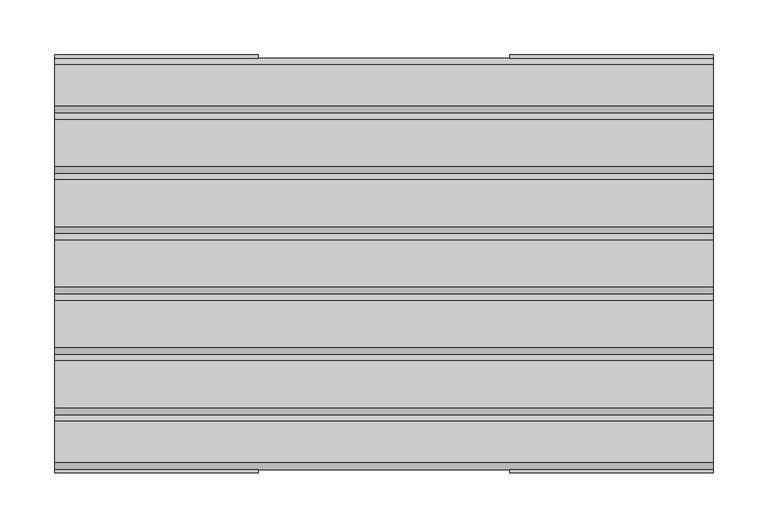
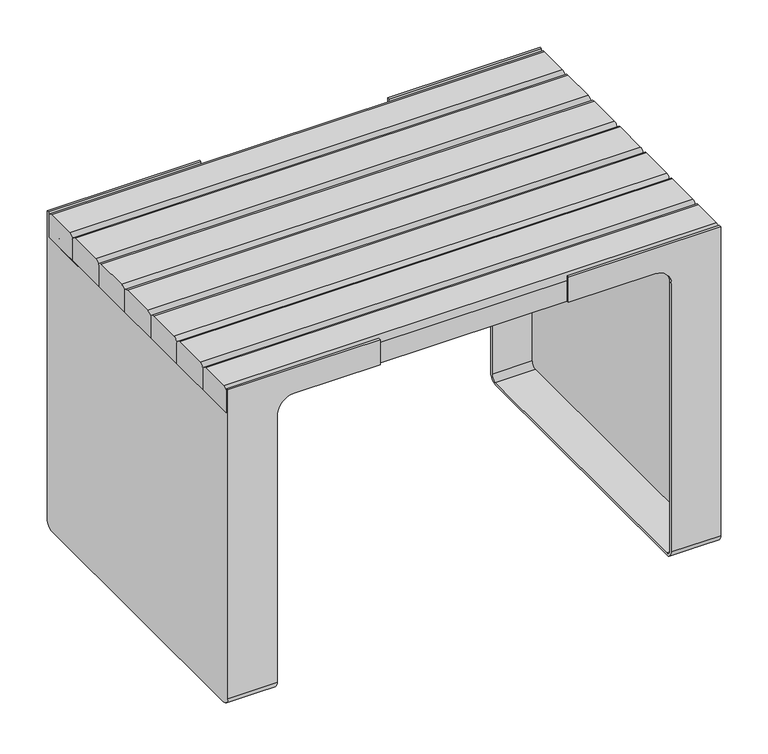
"""IFC4 building model written with IfcOpenShell, lengths in millimetres: furniture geometry, Roros Produkter - Nobel - Stool - 32670 : Roros Produkter - Nobel - Stool - 32670."""

from ifc_helpers import new_model, si_unit, point, frame, frame_2d, origin, place, context, project, spatial, polyline, circle_curve, trimmed, segment, composite_curve, outline, extrude, source, transform, mapped, element, save
from ifc_brep_helpers import plane_surface, cylinder_surface, revolved_surface, advanced_brep


def furniture_fbf1eeca(model_context):
    return source(origin(), model_context, "Body", "SolidModel", [
        advanced_brep(
        [(239.9998856, 190.4999943, 10.0), (239.9998856, 180.4999943, 0.0), (239.9998856, -180.5000057, 0.0), (239.9998856, -190.5000057, 10.0), (239.9998856, -190.5000057, 355.0000029), (239.9998856, -187.4999958, 355.0000029), (239.9998856, -187.5000057, 9.6519473), (239.9998856, -180.5000057, 2.6519473), (239.9998856, 180.4999958, 2.6519473), (239.9998856, 187.4999958, 9.6519473), (239.9998856, 187.4999958, 355.0000029), (239.9998856, 190.4999943, 355.0000029), (239.9998856, -187.4999958, 375.0000029), (239.9998856, 187.4999958, 375.0000029), (239.9998856, 187.4999958, 365.0000043), (239.9998856, 180.4999958, 372.0000043), (239.9998856, -180.5000057, 372.0000043), (239.9998856, -187.5000057, 365.0000043), (300.0000023, -190.5000057, 10.0), (300.0000023, -180.5000057, 0.0), (300.0000023, 180.4999943, 0.0), (300.0000023, 190.4999943, 10.0), (300.0000023, 190.5000057, 407.5), (300.0000023, 187.4999958, 407.5), (300.0000023, 187.4999958, 375.0000029), (300.0000023, -187.4999958, 375.0000029), (300.0000023, -187.4999958, 407.5), (300.0000023, -190.5000057, 407.5), (219.9998856, 190.4999943, 375.0000029), (114.6665474, 190.4999943, 375.0000029), (114.6665474, 190.4999943, 407.5), (114.6665474, -190.5000057, 407.5), (114.6665474, -190.5000057, 375.0000029), (219.9998856, -190.5000057, 375.0000029), (289.0000025, 187.4999958, 365.0000043), (289.0000025, 187.4999958, 9.6519473), (289.0000025, 180.4999958, 2.6519473), (289.0000025, -180.5000057, 2.6519473), (289.0000025, -187.5000057, 9.6519473), (289.0000025, -187.5000057, 365.0000043), (289.0000025, -180.5000057, 372.0000043), (289.0000025, 180.4999958, 372.0000043), (219.9998856, -187.4999958, 375.0000029), (114.6665474, -187.4999958, 375.0000029), (114.6665474, -187.4999958, 407.5), (114.6665474, 187.4999958, 407.5), (114.6665474, 187.4999958, 375.0000029), (219.9998856, 187.4999958, 375.0000029)],
        [
            (0, 1, circle_curve(frame((239.9998856, 180.4999943, 10.0), z_axis=(-1.0, 0.0, 0.0), x_axis=(0.0, -1.0, 0.0)), 10.0)),
            (1, 2),
            (2, 3, circle_curve(frame((239.9998856, -180.5000057, 10.0), z_axis=(-1.0, 0.0, 0.0), x_axis=(0.0, -1.0, 0.0)), 10.0)),
            (3, 4),
            (4, 5),
            (5, 6),
            (6, 7, circle_curve(frame((239.9998856, -180.5000057, 9.6519473), z_axis=(1.0, 0.0, 0.0), x_axis=(0.0, -1.0, 0.0)), 7.0)),
            (7, 8),
            (8, 9, circle_curve(frame((239.9998856, 180.4999958, 9.6519473), z_axis=(1.0, 0.0, 0.0), x_axis=(0.0, -1.0, 0.0)), 7.0)),
            (9, 10),
            (10, 11),
            (11, 0),
            (12, 13),
            (13, 14),
            (14, 15, circle_curve(frame((239.9998856, 180.4999958, 365.0000043), z_axis=(1.0, 0.0, 0.0), x_axis=(0.0, -1.0, 0.0)), 7.0)),
            (15, 16),
            (16, 17, circle_curve(frame((239.9998856, -180.5000057, 365.0000043), z_axis=(1.0, 0.0, 0.0), x_axis=(0.0, -1.0, 0.0)), 7.0)),
            (17, 12),
            (18, 19, circle_curve(frame((300.0000023, -180.5000057, 10.0), z_axis=(1.0, 0.0, 0.0), x_axis=(0.0, -1.0, 0.0)), 10.0)),
            (19, 20),
            (20, 21, circle_curve(frame((300.0000023, 180.4999943, 10.0), z_axis=(1.0, 0.0, 0.0), x_axis=(0.0, -1.0, 0.0)), 10.0)),
            (21, 22),
            (22, 23),
            (23, 24),
            (24, 25),
            (25, 26),
            (26, 27),
            (27, 18),
            (21, 0),
            (11, 28, circle_curve(frame((219.9998856, 190.4999943, 355.0000029), z_axis=(0.0, -1.0, 0.0), x_axis=(-1.0, 0.0, 0.0)), 20.0)),
            (28, 29),
            (29, 30),
            (30, 22),
            (12, 25),
            (24, 13),
            (3, 18),
            (27, 31),
            (31, 32),
            (32, 33),
            (33, 4, circle_curve(frame((219.9998856, -190.5000057, 355.0000029), z_axis=(0.0, 1.0, 0.0), x_axis=(-1.0, 0.0, 0.0)), 20.0)),
            (2, 19),
            (1, 20),
            (34, 35),
            (35, 36, circle_curve(frame((289.0000025, 180.4999958, 9.6519473), z_axis=(-1.0, 0.0, 0.0), x_axis=(0.0, -1.0, 0.0)), 7.0)),
            (36, 37),
            (37, 38, circle_curve(frame((289.0000025, -180.5000057, 9.6519473), z_axis=(-1.0, 0.0, 0.0), x_axis=(0.0, -1.0, 0.0)), 7.0)),
            (38, 39),
            (39, 40, circle_curve(frame((289.0000025, -180.5000057, 365.0000043), z_axis=(-1.0, 0.0, 0.0), x_axis=(0.0, -1.0, 0.0)), 7.0)),
            (40, 41),
            (41, 34, circle_curve(frame((289.0000025, 180.4999958, 365.0000043), z_axis=(-1.0, 0.0, 0.0), x_axis=(0.0, -1.0, 0.0)), 7.0)),
            (40, 16),
            (15, 41),
            (36, 8),
            (7, 37),
            (14, 34),
            (39, 17),
            (6, 38),
            (35, 9),
            (42, 43),
            (43, 44),
            (44, 26),
            (5, 42, circle_curve(frame((219.9998856, -187.4999958, 355.0000029), z_axis=(0.0, -1.0, 0.0), x_axis=(-1.0, 0.0, 0.0)), 20.0)),
            (32, 43),
            (42, 33),
            (31, 44),
            (23, 45),
            (45, 46),
            (46, 47),
            (47, 10, circle_curve(frame((219.9998856, 187.4999958, 355.0000029), z_axis=(0.0, 1.0, 0.0), x_axis=(-1.0, 0.0, 0.0)), 20.0)),
            (28, 47),
            (46, 29),
            (45, 30),
        ],
        [
            plane_surface(frame((239.9998856, 170.4999943, 10.0), z_axis=(-1.0, 0.0, 0.0), x_axis=(0.0, 0.0, 1.0))),
            plane_surface(frame((300.0000023, 170.4999943, 10.0), z_axis=(1.0, 0.0, 0.0), x_axis=(0.0, 0.0, -1.0))),
            plane_surface(frame((239.9998856, 190.4999943, 375.0000029), z_axis=(0.0, 1.0, 0.0), x_axis=(1.0, 0.0, 0.0))),
            plane_surface(frame((239.9998856, -190.5000057, 375.0000029), z_axis=(0.0, 0.0, 1.0), x_axis=(1.0, 0.0, 0.0))),
            plane_surface(frame((239.9998856, -190.5000057, 10.0), z_axis=(0.0, -1.0, 0.0), x_axis=(1.0, 0.0, 0.0))),
            cylinder_surface(frame((300.0000023, -180.5000057, 10.0), z_axis=(-1.0, 0.0, 0.0), x_axis=(0.0, -1.0, 0.0)), 10.0),
            plane_surface(frame((239.9998856, 180.4999943, 0.0), z_axis=(0.0, 0.0, -1.0), x_axis=(1.0, 0.0, 0.0))),
            cylinder_surface(frame((300.0000023, 180.4999943, 10.0), z_axis=(-1.0, 0.0, 0.0), x_axis=(0.0, -1.0, 0.0)), 10.0),
            plane_surface(frame((289.0000025, 187.4999958, 11.3137092), z_axis=(-1.0, 0.0, 0.0), x_axis=(0.0, 0.0, 1.0))),
            plane_surface(frame((170.0000067, -180.5000057, 372.0000043), z_axis=(0.0, 0.0, -1.0), x_axis=(1.0, 0.0, 0.0))),
            plane_surface(frame((170.0000067, 180.4999958, 2.6519473), z_axis=(0.0, 0.0, 1.0), x_axis=(1.0, 0.0, 0.0))),
            revolved_surface(polyline([(239.9998856, 173.4999958, 365.0000043), (289.0000025, 173.4999958, 365.0000043)]), (289.0000025, 180.4999958, 365.0000043), (-1.0, 0.0, 0.0)),
            revolved_surface(polyline([(239.9998856, -187.5000057, 365.0000043), (289.0000025, -187.5000057, 365.0000043)]), (289.0000025, -180.5000057, 365.0000043), (-1.0, 0.0, 0.0)),
            revolved_surface(polyline([(239.9998856, -187.5000057, 9.6519473), (289.0000025, -187.5000057, 9.6519473)]), (289.0000025, -180.5000057, 9.6519473), (-1.0, 0.0, 0.0)),
            revolved_surface(polyline([(239.9998856, 173.4999958, 9.6519473), (289.0000025, 173.4999958, 9.6519473)]), (289.0000025, 180.4999958, 9.6519473), (-1.0, 0.0, 0.0)),
            plane_surface(frame((300.0000023, -187.4999958, 425.0000032), z_axis=(0.0, 1.0, 0.0), x_axis=(0.0, 0.0, -1.0))),
            plane_surface(frame((114.6665474, -190.5000057, 375.0000029), z_axis=(0.0, 0.0, -1.0), x_axis=(0.0, 1.0, 0.0))),
            plane_surface(frame((114.6665474, -190.5000057, 407.5), z_axis=(-1.0, 0.0, 0.0), x_axis=(0.0, 1.0, 0.0))),
            plane_surface(frame((300.0000023, -190.5000057, 407.5), z_axis=(0.0, 0.0, 1.0), x_axis=(0.0, 1.0, 0.0))),
            revolved_surface(polyline([(199.9998856, -187.4999958, 355.0000029), (199.9998856, -190.5000057, 355.0000029)]), (219.9998856, -187.4999958, 355.0000029), (0.0, 1.0, 0.0)),
            plane_surface(frame((219.999998, 187.4999958, 375.0000029), z_axis=(0.0, -1.0, 0.0), x_axis=(1.0, 0.0, 0.0))),
            plane_surface(frame((219.9998856, 190.5000057, 375.0000029), z_axis=(0.0, 0.0, -1.0), x_axis=(0.0, -1.0, 0.0))),
            plane_surface(frame((114.6665474, 190.5000057, 375.0000029), z_axis=(-1.0, 0.0, 0.0), x_axis=(0.0, -1.0, 0.0))),
            plane_surface(frame((114.6665474, 190.5000057, 407.5), z_axis=(0.0, 0.0, 1.0), x_axis=(0.0, -1.0, 0.0))),
            revolved_surface(polyline([(199.9998856, 187.4999958, 355.0000029), (199.9998856, 190.4999943, 355.0000029)]), (219.9998856, 187.4999958, 355.0000029), (0.0, -1.0, 0.0)),
        ],
        [
            (0, [[1, 2, 3, 4, 5, 6, 7, 8, 9, 10, 11, 12]]),
            (0, [[13, 14, 15, 16, 17, 18]]),
            (1, [[19, 20, 21, 22, 23, 24, 25, 26, 27, 28]]),
            (2, [[29, -12, 30, 31, 32, 33, -22]]),
            (3, [[34, -25, 35, -13]]),
            (4, [[36, -28, 37, 38, 39, 40, -4]]),
            (5, [[-3, 41, -19, -36]]),
            (6, [[-2, 42, -20, -41]]),
            (7, [[-1, -29, -21, -42]]),
            (8, [[43, 44, 45, 46, 47, 48, 49, 50]]),
            (9, [[-49, 51, -16, 52]]),
            (10, [[-45, 53, -8, 54]]),
            (11, [[-50, -52, -15, 55]]),
            (12, [[-48, 56, -17, -51]]),
            (13, [[-46, -54, -7, 57]]),
            (14, [[-44, 58, -9, -53]]),
            (15, [[59, 60, 61, -26, -34, -18, -56, -47, -57, -6, 62]]),
            (16, [[-39, 63, -59, 64]]),
            (17, [[-38, 65, -60, -63]]),
            (18, [[-37, -27, -61, -65]]),
            (19, [[-40, -64, -62, -5]]),
            (20, [[-24, 66, 67, 68, 69, -10, -58, -43, -55, -14, -35]]),
            (21, [[-31, 70, -68, 71]]),
            (22, [[-32, -71, -67, 72]]),
            (23, [[-33, -72, -66, -23]]),
            (24, [[-30, -11, -69, -70]]),
        ],
    ),
        advanced_brep(
        [(-239.9998856, -190.5000057, 10.0), (-239.9998856, -180.5000057, 0.0), (-239.9998856, 180.4999943, 0.0), (-239.9998856, 190.4999943, 10.0), (-239.9998856, 190.4999943, 355.0000029), (-239.9998856, 187.4999958, 355.0000029), (-239.9998856, 187.4999958, 9.6519473), (-239.9998856, 180.4999958, 2.6519473), (-239.9998856, -180.5000057, 2.6519473), (-239.9998856, -187.5000057, 9.6519473), (-239.9998856, -187.5000057, 355.0000029), (-239.9998856, -190.5000057, 355.0000029), (-239.9998856, -187.4999958, 375.0000029), (-239.9998856, -187.5000057, 365.0000043), (-239.9998856, -180.5000057, 372.0000043), (-239.9998856, 180.4999958, 372.0000043), (-239.9998856, 187.4999958, 365.0000043), (-239.9998856, 187.4999958, 375.0000029), (-300.0000023, 190.4999943, 10.0), (-300.0000023, 180.4999943, 0.0), (-300.0000023, -180.5000057, 0.0), (-300.0000023, -190.5000057, 10.0), (-300.0000023, -190.5000057, 407.5), (-300.0000023, -187.4999958, 407.5), (-300.0000023, -187.4999958, 375.0000029), (-300.0000023, 187.4999958, 375.0000029), (-300.0000023, 187.4999958, 407.5), (-300.0000023, 190.5000057, 407.5), (-114.6665474, 190.4999943, 407.5), (-114.6665474, 190.4999943, 375.0000029), (-219.9998856, 190.4999943, 375.0000029), (-219.9998856, -190.5000057, 375.0000029), (-114.6665474, -190.5000057, 375.0000029), (-114.6665474, -190.5000057, 407.5), (-289.0000025, 187.4999958, 365.0000043), (-289.0000025, 180.4999958, 372.0000043), (-289.0000025, -180.5000057, 372.0000043), (-289.0000025, -187.5000057, 365.0000043), (-289.0000025, -187.5000057, 9.6519473), (-289.0000025, -180.5000057, 2.6519473), (-289.0000025, 180.4999958, 2.6519473), (-289.0000025, 187.4999958, 9.6519473), (-219.9998856, 187.4999958, 375.0000029), (-114.6665474, 187.4999958, 375.0000029), (-114.6665474, 187.4999958, 407.5), (-114.6665474, -187.4999958, 407.5), (-114.6665474, -187.4999958, 375.0000029), (-219.9998856, -187.4999958, 375.0000029)],
        [
            (0, 1, circle_curve(frame((-239.9998856, -180.5000057, 10.0), z_axis=(1.0, 0.0, 0.0), x_axis=(0.0, -1.0, 0.0)), 10.0)),
            (1, 2),
            (2, 3, circle_curve(frame((-239.9998856, 180.4999943, 10.0), z_axis=(1.0, 0.0, 0.0), x_axis=(0.0, -1.0, 0.0)), 10.0)),
            (3, 4),
            (4, 5),
            (5, 6),
            (6, 7, circle_curve(frame((-239.9998856, 180.4999958, 9.6519473), z_axis=(-1.0, 0.0, 0.0), x_axis=(0.0, -1.0, 0.0)), 7.0)),
            (7, 8),
            (8, 9, circle_curve(frame((-239.9998856, -180.5000057, 9.6519473), z_axis=(-1.0, 0.0, 0.0), x_axis=(0.0, -1.0, 0.0)), 7.0)),
            (9, 10),
            (10, 11),
            (11, 0),
            (12, 13),
            (13, 14, circle_curve(frame((-239.9998856, -180.5000057, 365.0000043), z_axis=(-1.0, 0.0, 0.0), x_axis=(0.0, -1.0, 0.0)), 7.0)),
            (14, 15),
            (15, 16, circle_curve(frame((-239.9998856, 180.4999958, 365.0000043), z_axis=(-1.0, 0.0, 0.0), x_axis=(0.0, -1.0, 0.0)), 7.0)),
            (16, 17),
            (17, 12),
            (18, 19, circle_curve(frame((-300.0000023, 180.4999943, 10.0), z_axis=(-1.0, 0.0, 0.0), x_axis=(0.0, -1.0, 0.0)), 10.0)),
            (19, 20),
            (20, 21, circle_curve(frame((-300.0000023, -180.5000057, 10.0), z_axis=(-1.0, 0.0, 0.0), x_axis=(0.0, -1.0, 0.0)), 10.0)),
            (21, 22),
            (22, 23),
            (23, 24),
            (24, 25),
            (25, 26),
            (26, 27),
            (27, 18),
            (27, 28),
            (28, 29),
            (29, 30),
            (30, 4, circle_curve(frame((-219.9998856, 190.4999943, 355.0000029), z_axis=(0.0, -1.0, 0.0), x_axis=(1.0, 0.0, 0.0)), 20.0)),
            (3, 18),
            (24, 12),
            (17, 25),
            (21, 0),
            (11, 31, circle_curve(frame((-219.9998856, -190.5000057, 355.0000029), z_axis=(0.0, 1.0, 0.0), x_axis=(1.0, 0.0, 0.0)), 20.0)),
            (31, 32),
            (32, 33),
            (33, 22),
            (20, 1),
            (19, 2),
            (34, 35, circle_curve(frame((-289.0000025, 180.4999958, 365.0000043), z_axis=(1.0, 0.0, 0.0), x_axis=(0.0, -1.0, 0.0)), 7.0)),
            (35, 36),
            (36, 37, circle_curve(frame((-289.0000025, -180.5000057, 365.0000043), z_axis=(1.0, 0.0, 0.0), x_axis=(0.0, -1.0, 0.0)), 7.0)),
            (37, 38),
            (38, 39, circle_curve(frame((-289.0000025, -180.5000057, 9.6519473), z_axis=(1.0, 0.0, 0.0), x_axis=(0.0, -1.0, 0.0)), 7.0)),
            (39, 40),
            (40, 41, circle_curve(frame((-289.0000025, 180.4999958, 9.6519473), z_axis=(1.0, 0.0, 0.0), x_axis=(0.0, -1.0, 0.0)), 7.0)),
            (41, 34),
            (35, 15),
            (14, 36),
            (39, 8),
            (7, 40),
            (41, 6),
            (5, 42, circle_curve(frame((-219.9998856, 187.4999958, 355.0000029), z_axis=(0.0, 1.0, 0.0), x_axis=(1.0, 0.0, 0.0)), 20.0)),
            (42, 43),
            (43, 44),
            (44, 26),
            (16, 34),
            (13, 37),
            (38, 9),
            (29, 43),
            (42, 30),
            (28, 44),
            (23, 45),
            (45, 46),
            (46, 47),
            (47, 10, circle_curve(frame((-219.9998856, -187.4999958, 355.0000029), z_axis=(0.0, -1.0, 0.0), x_axis=(1.0, 0.0, 0.0)), 20.0)),
            (31, 47),
            (46, 32),
            (45, 33),
        ],
        [
            plane_surface(frame((-239.9998856, 190.4999943, 375.0000029), z_axis=(1.0, 0.0, 0.0), x_axis=(0.0, 0.0, 1.0))),
            plane_surface(frame((-300.0000023, 190.4999943, 375.0000029), z_axis=(-1.0, 0.0, 0.0), x_axis=(0.0, 0.0, -1.0))),
            plane_surface(frame((-239.9998856, 190.4999943, 10.0), z_axis=(0.0, 1.0, 0.0), x_axis=(-1.0, 0.0, 0.0))),
            plane_surface(frame((-239.9998856, 190.4999943, 375.0000029), z_axis=(0.0, 0.0, 1.0), x_axis=(-1.0, 0.0, 0.0))),
            plane_surface(frame((-239.9998856, -190.5000057, 375.0000029), z_axis=(0.0, -1.0, 0.0), x_axis=(-1.0, 0.0, 0.0))),
            cylinder_surface(frame((-300.0000023, -180.5000057, 10.0), z_axis=(1.0, 0.0, 0.0), x_axis=(0.0, -1.0, 0.0)), 10.0),
            plane_surface(frame((-239.9998856, -180.5000057, 0.0), z_axis=(0.0, 0.0, -1.0), x_axis=(-1.0, 0.0, 0.0))),
            cylinder_surface(frame((-300.0000023, 180.4999943, 10.0), z_axis=(1.0, 0.0, 0.0), x_axis=(0.0, -1.0, 0.0)), 10.0),
            plane_surface(frame((-289.0000025, 173.4999958, 365.0000043), z_axis=(1.0, 0.0, 0.0), x_axis=(0.0, 0.0, 1.0))),
            plane_surface(frame((-170.0000067, 180.4999958, 372.0000043), z_axis=(0.0, 0.0, -1.0), x_axis=(-1.0, 0.0, 0.0))),
            plane_surface(frame((-170.0000067, -180.5000057, 2.6519473), z_axis=(0.0, 0.0, 1.0), x_axis=(-1.0, 0.0, 0.0))),
            plane_surface(frame((-170.0000067, 187.4999958, 9.6519473), z_axis=(0.0, -1.0, 0.0), x_axis=(-1.0, 0.0, 0.0))),
            revolved_surface(polyline([(-239.9998856, 173.4999958, 365.0000043), (-289.0000025, 173.4999958, 365.0000043)]), (-289.0000025, 180.4999958, 365.0000043), (1.0, 0.0, 0.0)),
            revolved_surface(polyline([(-239.9998856, -187.5000057, 365.0000043), (-289.0000025, -187.5000057, 365.0000043)]), (-289.0000025, -180.5000057, 365.0000043), (1.0, 0.0, 0.0)),
            revolved_surface(polyline([(-239.9998856, -187.5000057, 9.6519473), (-289.0000025, -187.5000057, 9.6519473)]), (-289.0000025, -180.5000057, 9.6519473), (1.0, 0.0, 0.0)),
            revolved_surface(polyline([(-239.9998856, 173.4999958, 9.6519473), (-289.0000025, 173.4999958, 9.6519473)]), (-289.0000025, 180.4999958, 9.6519473), (1.0, 0.0, 0.0)),
            plane_surface(frame((-114.6665474, 190.5000057, 375.0000029), z_axis=(0.0, 0.0, -1.0), x_axis=(0.0, -1.0, 0.0))),
            plane_surface(frame((-114.6665474, 190.5000057, 407.5), z_axis=(1.0, 0.0, 0.0), x_axis=(0.0, -1.0, 0.0))),
            plane_surface(frame((-300.0000023, 190.5000057, 407.5), z_axis=(0.0, 0.0, 1.0), x_axis=(0.0, -1.0, 0.0))),
            revolved_surface(polyline([(-199.9998856, 187.4999958, 355.0000029), (-199.9998856, 190.4999943, 355.0000029)]), (-219.9998856, 187.4999958, 355.0000029), (0.0, -1.0, 0.0)),
            plane_surface(frame((-219.999998, -187.4999958, 375.0000029), z_axis=(0.0, 1.0, 0.0), x_axis=(-1.0, 0.0, 0.0))),
            plane_surface(frame((-219.9998856, -190.5000057, 375.0000029), z_axis=(0.0, 0.0, -1.0), x_axis=(0.0, 1.0, 0.0))),
            plane_surface(frame((-114.6665474, -190.5000057, 375.0000029), z_axis=(1.0, 0.0, 0.0), x_axis=(0.0, 1.0, 0.0))),
            plane_surface(frame((-114.6665474, -190.5000057, 407.5), z_axis=(0.0, 0.0, 1.0), x_axis=(0.0, 1.0, 0.0))),
            revolved_surface(polyline([(-199.9998856, -187.4999958, 355.0000029), (-199.9998856, -190.5000057, 355.0000029)]), (-219.9998856, -187.4999958, 355.0000029), (0.0, 1.0, 0.0)),
        ],
        [
            (0, [[1, 2, 3, 4, 5, 6, 7, 8, 9, 10, 11, 12]]),
            (0, [[13, 14, 15, 16, 17, 18]]),
            (1, [[19, 20, 21, 22, 23, 24, 25, 26, 27, 28]]),
            (2, [[-28, 29, 30, 31, 32, -4, 33]]),
            (3, [[34, -18, 35, -25]]),
            (4, [[36, -12, 37, 38, 39, 40, -22]]),
            (5, [[-1, -36, -21, 41]]),
            (6, [[-2, -41, -20, 42]]),
            (7, [[-3, -42, -19, -33]]),
            (8, [[43, 44, 45, 46, 47, 48, 49, 50]]),
            (9, [[-44, 51, -15, 52]]),
            (10, [[-48, 53, -8, 54]]),
            (11, [[-50, 55, -6, 56, 57, 58, 59, -26, -35, -17, 60]]),
            (12, [[-43, -60, -16, -51]]),
            (13, [[-45, -52, -14, 61]]),
            (14, [[-47, 62, -9, -53]]),
            (15, [[-49, -54, -7, -55]]),
            (16, [[-31, 63, -57, 64]]),
            (17, [[-30, 65, -58, -63]]),
            (18, [[-29, -27, -59, -65]]),
            (19, [[-32, -64, -56, -5]]),
            (20, [[-24, 66, 67, 68, 69, -10, -62, -46, -61, -13, -34]]),
            (21, [[-38, 70, -68, 71]]),
            (22, [[-39, -71, -67, 72]]),
            (23, [[-40, -72, -66, -23]]),
            (24, [[-37, -11, -69, -70]]),
        ],
    ),
        extrude(outline(composite_curve([segment(trimmed(circle_curve(frame_2d((88.4999913, 401.5)), 6.0), [point((82.4999913, 401.5))], [point((88.4999913, 407.5))], False, "CARTESIAN"), True, "CONTINUOUS"), segment(polyline([(88.4999913, 407.5), (131.4849653, 407.5)]), True, "CONTINUOUS"), segment(trimmed(circle_curve(frame_2d((131.4849653, 401.48497)), 6.01503), [point((131.4849653, 407.5))], [point((137.4999954, 401.48497))], False, "CARTESIAN"), True, "CONTINUOUS"), segment(polyline([(137.4999954, 401.48497), (137.4999954, 375.0000029), (82.4999913, 375.0000029), (82.4999913, 401.5)]), True, "CONTINUOUS")], self_intersect=False)), frame((-300.0000023, 0.0, 0.0), z_axis=(1.0, 0.0, 0.0), x_axis=(0.0, 1.0, 0.0)), (0.0, 0.0, 1.0), 600.0000046),
        extrude(outline(composite_curve([segment(trimmed(circle_curve(frame_2d((-21.4999963, 401.5)), 6.0), [point((-27.4999963, 401.5))], [point((-21.4999963, 407.5))], False, "CARTESIAN"), True, "CONTINUOUS"), segment(polyline([(-21.4999963, 407.5), (21.4849663, 407.5)]), True, "CONTINUOUS"), segment(trimmed(circle_curve(frame_2d((21.4849663, 401.48497)), 6.01503), [point((21.4849663, 407.5))], [point((27.4999963, 401.48497))], False, "CARTESIAN"), True, "CONTINUOUS"), segment(polyline([(27.4999963, 401.48497), (27.4999963, 375.0000029), (-27.4999963, 375.0000029), (-27.4999963, 401.5)]), True, "CONTINUOUS")], self_intersect=False)), frame((-300.0000023, 0.0, 0.0), z_axis=(1.0, 0.0, 0.0), x_axis=(0.0, 1.0, 0.0)), (0.0, 0.0, 1.0), 600.0000046),
        extrude(outline(composite_curve([segment(trimmed(circle_curve(frame_2d((-131.4999954, 401.5)), 6.0), [point((-137.4999954, 401.5))], [point((-131.4999954, 407.5))], False, "CARTESIAN"), True, "CONTINUOUS"), segment(polyline([(-131.4999954, 407.5), (-88.5150214, 407.5)]), True, "CONTINUOUS"), segment(trimmed(circle_curve(frame_2d((-88.5150214, 401.48497)), 6.01503), [point((-88.5150214, 407.5))], [point((-82.4999913, 401.48497))], False, "CARTESIAN"), True, "CONTINUOUS"), segment(polyline([(-82.4999913, 401.48497), (-82.4999913, 375.0000029), (-137.4999954, 375.0000029), (-137.4999954, 401.5)]), True, "CONTINUOUS")], self_intersect=False)), frame((-300.0000023, 0.0, 0.0), z_axis=(1.0, 0.0, 0.0), x_axis=(0.0, 1.0, 0.0)), (0.0, 0.0, 1.0), 600.0000046),
        extrude(outline(composite_curve([segment(polyline([(82.4999913, 401.5), (82.4999913, 375.0000029), (27.4999963, 375.0000029), (27.4999963, 401.5)]), True, "CONTINUOUS"), segment(trimmed(circle_curve(frame_2d((33.4999963, 401.5)), 6.0), [point((27.4999963, 401.5))], [point((33.4999963, 407.5))], False, "CARTESIAN"), True, "CONTINUOUS"), segment(polyline([(33.4999963, 407.5), (76.4999913, 407.5)]), True, "CONTINUOUS"), segment(trimmed(circle_curve(frame_2d((76.4999913, 401.5)), 6.0), [point((76.4999913, 407.5))], [point((82.4999913, 401.5))], False, "CARTESIAN"), True, "CONTINUOUS")], self_intersect=False)), frame((-300.0000023, 0.0, 0.0), z_axis=(1.0, 0.0, 0.0), x_axis=(0.0, 1.0, 0.0)), (0.0, 0.0, 1.0), 600.0000046),
        extrude(outline(composite_curve([segment(polyline([(-27.4999963, 401.5), (-27.4999963, 375.0000029), (-82.4999913, 375.0000029), (-82.4999913, 401.5)]), True, "CONTINUOUS"), segment(trimmed(circle_curve(frame_2d((-76.4999913, 401.5)), 6.0), [point((-82.4999913, 401.5))], [point((-76.4999913, 407.5))], False, "CARTESIAN"), True, "CONTINUOUS"), segment(polyline([(-76.4999913, 407.5), (-33.4999963, 407.5)]), True, "CONTINUOUS"), segment(trimmed(circle_curve(frame_2d((-33.4999963, 401.5)), 6.0), [point((-33.4999963, 407.5))], [point((-27.4999963, 401.5))], False, "CARTESIAN"), True, "CONTINUOUS")], self_intersect=False)), frame((-300.0000023, 0.0, 0.0), z_axis=(1.0, 0.0, 0.0), x_axis=(0.0, 1.0, 0.0)), (0.0, 0.0, 1.0), 600.0000046),
        extrude(outline(composite_curve([segment(polyline([(-137.4999954, 401.5), (-137.4999954, 375.0000029), (-187.4999958, 375.0000029), (-187.4999958, 401.5)]), True, "CONTINUOUS"), segment(trimmed(circle_curve(frame_2d((-181.4999958, 401.5)), 6.0), [point((-187.4999958, 401.5))], [point((-181.4999958, 407.5))], False, "CARTESIAN"), True, "CONTINUOUS"), segment(polyline([(-181.4999958, 407.5), (-143.4999954, 407.5)]), True, "CONTINUOUS"), segment(trimmed(circle_curve(frame_2d((-143.4999954, 401.5)), 6.0), [point((-143.4999954, 407.5))], [point((-137.4999954, 401.5))], False, "CARTESIAN"), True, "CONTINUOUS")], self_intersect=False)), frame((-300.0000023, 0.0, 0.0), z_axis=(1.0, 0.0, 0.0), x_axis=(0.0, 1.0, 0.0)), (0.0, 0.0, 1.0), 600.0000046),
        extrude(outline(composite_curve([segment(trimmed(circle_curve(frame_2d((143.4999954, 401.5)), 6.0), [point((137.4999954, 401.5))], [point((143.4999954, 407.5))], False, "CARTESIAN"), True, "CONTINUOUS"), segment(polyline([(143.4999954, 407.5), (181.4849657, 407.5)]), True, "CONTINUOUS"), segment(trimmed(circle_curve(frame_2d((181.4849657, 401.48497)), 6.01503), [point((181.4849657, 407.5))], [point((187.4999958, 401.48497))], False, "CARTESIAN"), True, "CONTINUOUS"), segment(polyline([(187.4999958, 401.48497), (187.4999958, 375.0000029), (137.4999954, 375.0000029), (137.4999954, 401.5)]), True, "CONTINUOUS")], self_intersect=False)), frame((-300.0000023, 0.0, 0.0), z_axis=(1.0, 0.0, 0.0), x_axis=(0.0, 1.0, 0.0)), (0.0, 0.0, 1.0), 600.0000046),
    ])


if __name__ == "__main__":
    model = new_model("IFC4")
    model_context = context("Model", 3, world=origin())
    ifc_project = project(units=[si_unit("LENGTHUNIT", "METRE", prefix="MILLI")], contexts=[model_context])
    site = spatial("IfcSite", under=ifc_project)
    building = spatial("IfcBuilding", under=site)
    placement = place(None, origin())
    furniture_shape = furniture_fbf1eeca(model_context)
    element("IfcFurniture", 1, ObjectType="Roros Produkter - Nobel - Stool - 32670 : Roros Produkter - Nobel - Stool - 32670", at=placement, inside=building, context=model_context, shape_type="MappedRepresentation", body=[
        mapped(furniture_shape, transform((0.0, 0.0, 0.0), x_axis=(1.0, 0.0, 0.0), y_axis=(0.0, 1.0, 0.0), z_axis=(0.0, 0.0, 1.0))),
    ])
    save(model, "model.ifc")
